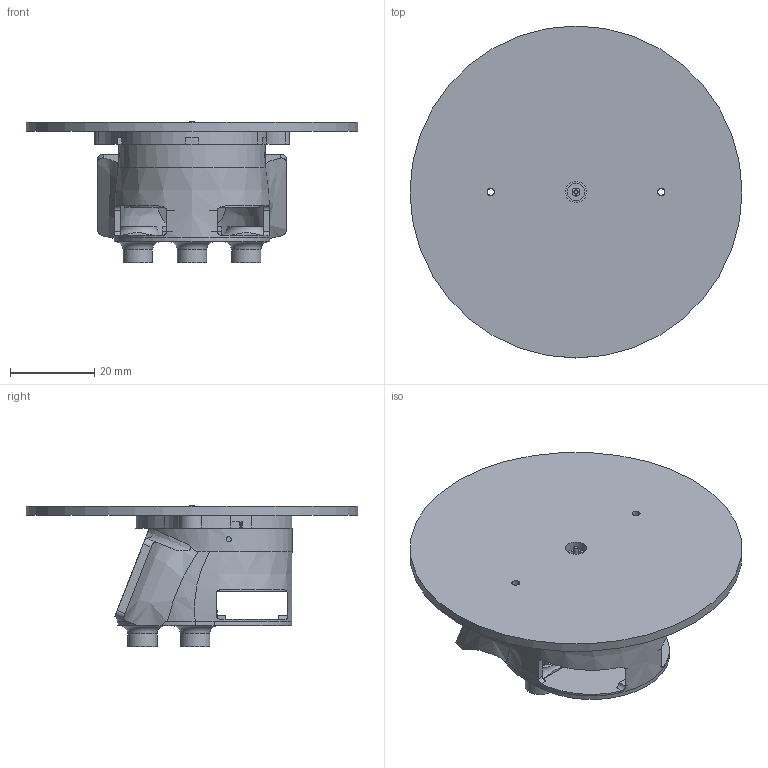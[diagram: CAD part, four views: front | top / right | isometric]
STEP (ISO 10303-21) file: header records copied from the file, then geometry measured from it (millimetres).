
FILE_DESCRIPTION(/* description */ (''),/* implementation_level */ '2;1');
FILE_NAME(/* name */ 'Tacho_Umbau_Stepper v13.step',/* time_stamp */ '2025-03-30T13:38:41+02:00',/* author */ (''),/* organization */ (''),/* preprocessor_version */ 'ST-DEVELOPER v20.1',/* originating_system */ 'Autodesk Translation Framework v14.4.0.0',/* authorisation */ '');
FILE_SCHEMA (('AUTOMOTIVE_DESIGN { 1 0 10303 214 3 1 1 }'));
Length unit declared in the file: millimetre
Products named in the file (1): Tacho_Umbau_Stepper
Bounding box: 79 x 79 x 33.6 mm (x, y, z)
Volume: 33622.8 mm3; surface area: 26250.3 mm2
Topology: 7 solids, 7 shells, 231 faces, 595 edges, 394 vertices
Faces by surface type: plane 113, cylinder 96, bspline 13, torus 7, cone 2
Full cylindrical faces by diameter (mm): 0.5 x4, 1 x5, 1.2 x2, 1.3 x2, 1.6 x2, 1.7 x2, 1.85 x2, 1.9 x1, 2 x2, 2.6 x3, 3.2 x3, 4.096 x1, 4.2 x6, 5 x1, 7 x4, 32 x2, 79 x1
Entity records: 9006 total; most frequent: CARTESIAN_POINT 3306, ORIENTED_EDGE 1190, DIRECTION 1110, EDGE_CURVE 595, AXIS2_PLACEMENT_3D 416, VERTEX_POINT 394, EDGE_LOOP 295, LINE 278
